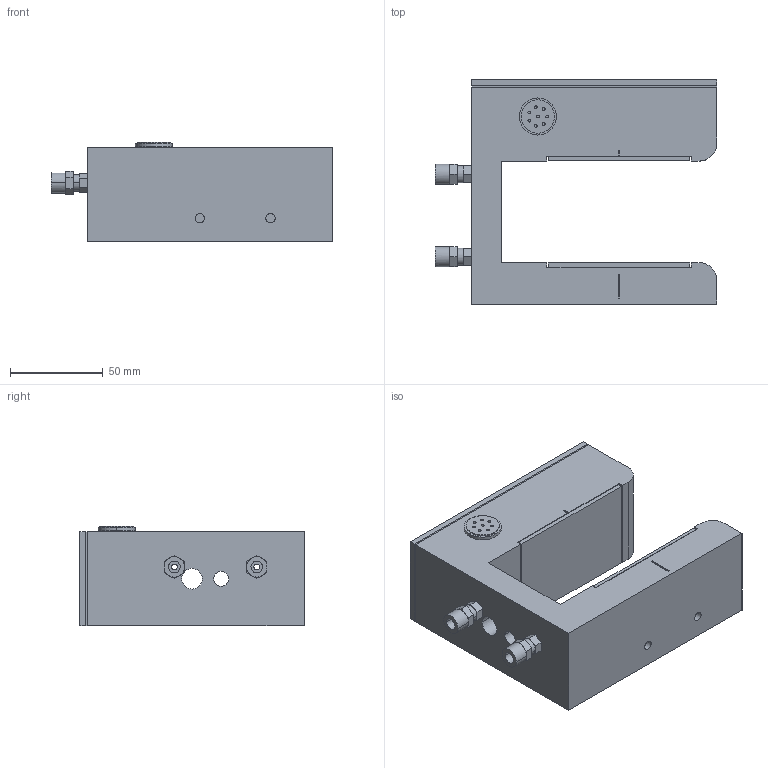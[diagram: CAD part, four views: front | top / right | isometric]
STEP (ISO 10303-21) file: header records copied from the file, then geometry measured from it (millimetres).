
FILE_DESCRIPTION((''),'2;1');
FILE_NAME('Model_SE-38_67350-G.stp','2008-01-11T14:04:52',(''),(''),'Mechanical Desktop 2008','Mechanical Desktop 2008',', , ');
FILE_SCHEMA(('AUTOMOTIVE_DESIGN { 1 2 10303 214 1 1 1 1 }'));
Length unit declared in the file: inch
Products named in the file (1): MODEL_SE-38_67350-G
Bounding box: 151.89 x 120.94 x 53.77 mm (x, y, z)
Volume: 483937.3 mm3; surface area: 105230.2 mm2
Topology: 8 solids, 8 shells, 185 faces, 444 edges, 288 vertices
Faces by surface type: plane 125, cylinder 60
Entity records: 5466 total; most frequent: DIRECTION 960, CARTESIAN_POINT 918, ORIENTED_EDGE 888, EDGE_CURVE 444, AXIS2_PLACEMENT_3D 330, VECTOR 300, LINE 300, VERTEX_POINT 288
